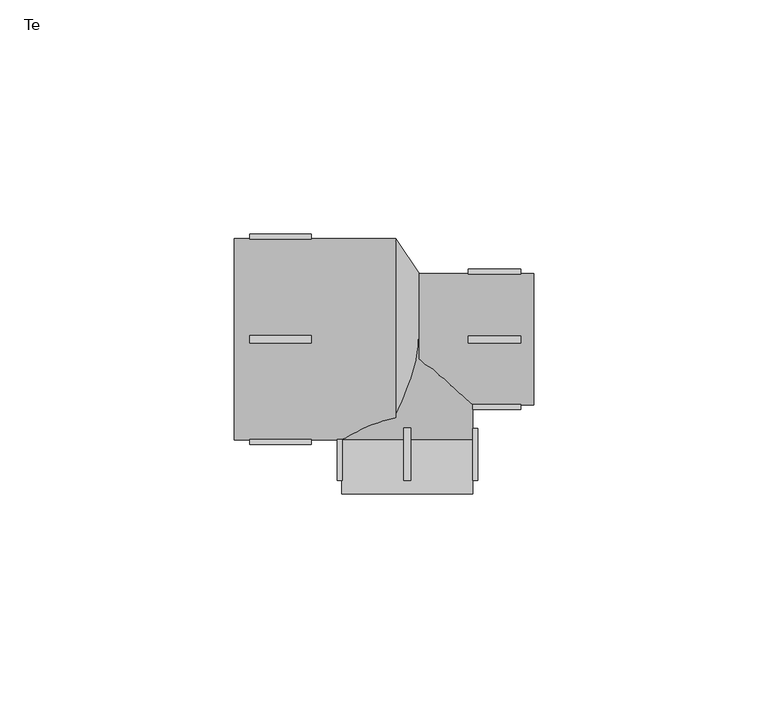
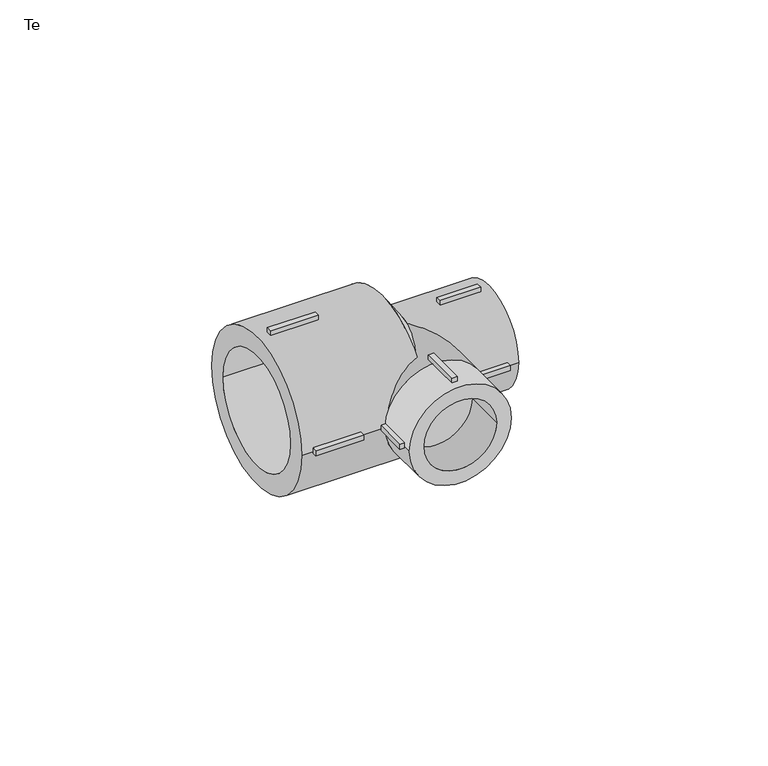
"""IFC4 building model written with IfcOpenShell, lengths in millimetres: pipe fitting geometry, EGB_VASEN_ PPR_Te WXR300_Te reducida WXR310 : Te."""

import ifcopenshell
import ifcopenshell.guid

model = None  # the IFC model being written
_history = None  # IfcOwnerHistory: only IFC2X3 demands one
_inside = {}  # id of a spatial element -> (the spatial element, [elements in it])
_under = {}  # id of a project, library or spatial element -> (it, [spatial elements below it])
_declared = {}  # id of a project -> (the project, [libraries it declares])
_typed = {}  # id of a type object -> (the type object, [elements of that type])
_made_of = {}  # id of a material, layer set ... -> (it, [elements and type objects made of it])


def new_model(schema):
    """Start an empty IFC model of exactly this schema.

    Asked for "IFC4X3", IfcOpenShell would pick the latest addendum, in which some entities
    have other attributes; the version numbers below select the first issue.
    IFC2X3 requires an IfcOwnerHistory on every rooted entity: one is made here for all.
    """
    global model, _history
    if schema == "IFC4X3":
        model = ifcopenshell.file(schema_version=(4, 3, 0, 0))
    else:
        model = ifcopenshell.file(schema=schema)
    _inside.clear()
    _under.clear()
    _declared.clear()
    _typed.clear()
    _made_of.clear()
    _history = None
    if model.schema == "IFC2X3":
        org = make("IfcOrganization", Name="unknown")
        user = make(
            "IfcPersonAndOrganization",
            ThePerson=make("IfcPerson", FamilyName="unknown"),
            TheOrganization=org,
        )
        app = make(
            "IfcApplication",
            ApplicationDeveloper=org,
            Version="unknown",
            ApplicationFullName="unknown",
            ApplicationIdentifier="unknown",
        )
        _history = make(
            "IfcOwnerHistory",
            OwningUser=user,
            OwningApplication=app,
            ChangeAction="ADDED",
            CreationDate=0,
        )
    return model


def make(cls, **values):
    """One entity of the class cls with the attributes given. An attribute that is None is left unset."""
    return model.create_entity(
        cls, **{name: value for name, value in values.items() if value is not None}
    )


def rooted(cls, **values):
    """An entity with a GlobalId (a new one), such as an element, a storey or a relation."""
    return make(cls, GlobalId=ifcopenshell.guid.new(), OwnerHistory=_history, **values)


def si_unit(unit_type, name, prefix=None):
    """IfcSIUnit, for example si_unit("LENGTHUNIT", "METRE", prefix="MILLI")."""
    return make("IfcSIUnit", UnitType=unit_type, Prefix=prefix, Name=name)


def assignment(units):
    """IfcUnitAssignment: the units of a project."""
    return None if units is None else make("IfcUnitAssignment", Units=units)


def point(xyz):
    """IfcCartesianPoint."""
    return None if xyz is None else make("IfcCartesianPoint", Coordinates=xyz)


def direction(xyz):
    """IfcDirection."""
    return None if xyz is None else make("IfcDirection", DirectionRatios=xyz)


def frame(location, z_axis=None, x_axis=None):
    """IfcAxis2Placement3D, a coordinate frame: its origin and axes. An axis left out is left unset."""
    return make(
        "IfcAxis2Placement3D",
        Location=point(location),
        Axis=direction(z_axis),
        RefDirection=direction(x_axis),
    )


def frame_2d(location, x_axis=None):
    """IfcAxis2Placement2D, a coordinate frame in the plane: its origin and x axis."""
    return make(
        "IfcAxis2Placement2D", Location=point(location), RefDirection=direction(x_axis)
    )


def origin():
    """The frame at (0, 0, 0) with its axes left unset."""
    return frame((0.0, 0.0, 0.0))


def origin_2d():
    """The frame at (0, 0) in the plane with its x axis left unset."""
    return frame_2d((0.0, 0.0))


def place(relative_to, where):
    """IfcLocalPlacement: puts the frame where relative to a parent placement (None: the world)."""
    return make(
        "IfcLocalPlacement", PlacementRelTo=relative_to, RelativePlacement=where
    )


def context(
    kind, dimensions, precision=None, world=None, true_north=None, identifier=None
):
    """IfcGeometricRepresentationContext, for example the 3D "Model" context."""
    return make(
        "IfcGeometricRepresentationContext",
        ContextIdentifier=identifier,
        ContextType=kind,
        CoordinateSpaceDimension=dimensions,
        Precision=precision,
        WorldCoordinateSystem=world,
        TrueNorth=true_north,
    )


def project(units=None, contexts=None):
    """IfcProject with its units and contexts."""
    return rooted(
        "IfcProject",
        Name="project",
        RepresentationContexts=contexts,
        UnitsInContext=assignment(units),
    )


def spatial(cls, under=None, at=None, **own):
    """A site, building, storey or space (cls), placed at a placement, below another one or the project."""
    s = rooted(cls, ObjectPlacement=at, **own)
    if under is not None:
        _under.setdefault(under.id(), (under, []))[1].append(s)
    return s


def polyline(points):
    """IfcPolyline through the points."""
    return make("IfcPolyline", Points=[point(p) for p in points])


def circle_curve(where, radius):
    """IfcCircle in the frame where."""
    return make("IfcCircle", Position=where, Radius=radius)


def trimmed(basis, trim1, trim2, sense, master):
    """IfcTrimmedCurve: the piece of a basis curve between two trims."""
    return make(
        "IfcTrimmedCurve",
        BasisCurve=basis,
        Trim1=trim1,
        Trim2=trim2,
        SenseAgreement=sense,
        MasterRepresentation=master,
    )


def segment(curve, same_sense, transition):
    """IfcCompositeCurveSegment."""
    return make(
        "IfcCompositeCurveSegment",
        Transition=transition,
        SameSense=same_sense,
        ParentCurve=curve,
    )


def composite_curve(segments, self_intersect=None):
    """IfcCompositeCurve: segments joined end to end."""
    return make("IfcCompositeCurve", Segments=segments, SelfIntersect=self_intersect)


def outline(outer, holes=None, kind="AREA"):
    """IfcArbitraryClosedProfileDef: a profile drawn as a closed curve; with holes, ...WithVoids."""
    if holes is None:
        return make("IfcArbitraryClosedProfileDef", ProfileType=kind, OuterCurve=outer)
    return make(
        "IfcArbitraryProfileDefWithVoids",
        ProfileType=kind,
        OuterCurve=outer,
        InnerCurves=holes,
    )


def extrude(swept, where, along, depth):
    """IfcExtrudedAreaSolid: the profile swept, set in the frame where, extruded along a direction by depth."""
    return make(
        "IfcExtrudedAreaSolid",
        SweptArea=swept,
        Position=where,
        ExtrudedDirection=direction(along),
        Depth=depth,
    )


def shape(context_of_items, identifier, shape_type, items):
    """IfcShapeRepresentation: the items that make up one representation, for example the "Body"."""
    return make(
        "IfcShapeRepresentation",
        ContextOfItems=context_of_items,
        RepresentationIdentifier=identifier,
        RepresentationType=shape_type,
        Items=items,
    )


def source(mapping_origin, context_of_items, identifier, shape_type, items):
    """IfcRepresentationMap: a shape defined once, which mapped items show again and again."""
    return make(
        "IfcRepresentationMap",
        MappingOrigin=mapping_origin,
        MappedRepresentation=shape(context_of_items, identifier, shape_type, items),
    )


def transform(
    local_origin,
    x_axis=None,
    y_axis=None,
    z_axis=None,
    scale=None,
    scale2=None,
    scale3=None,
    uniform=True,
):
    """IfcCartesianTransformationOperator3D, or its non-uniform kind. x_axis, y_axis, z_axis: its Axis1, 2, 3."""
    if uniform:
        return make(
            "IfcCartesianTransformationOperator3D",
            Axis1=direction(x_axis),
            Axis2=direction(y_axis),
            LocalOrigin=point(local_origin),
            Scale=scale,
            Axis3=direction(z_axis),
        )
    return make(
        "IfcCartesianTransformationOperator3DnonUniform",
        Axis1=direction(x_axis),
        Axis2=direction(y_axis),
        LocalOrigin=point(local_origin),
        Scale=scale,
        Axis3=direction(z_axis),
        Scale2=scale2,
        Scale3=scale3,
    )


def mapped(mapping_source, mapping_target):
    """IfcMappedItem: shows the shape of a source again, moved by a transform."""
    return make(
        "IfcMappedItem", MappingSource=mapping_source, MappingTarget=mapping_target
    )


def made_of(thing, what):
    """Note that an element or type object is made of a material, layer set ...; save() writes the relation."""
    if what is not None:
        _made_of.setdefault(what.id(), (what, []))[1].append(thing)
    return thing


def element(
    cls,
    number,
    at=None,
    inside=None,
    cuts=None,
    type_object=None,
    material=None,
    context=None,
    identifier="Body",
    shape_type=None,
    held_by="IfcProductDefinitionShape",
    body=None,
    shapes=None,
    **own,
):
    """One element of the class cls, such as IfcWall. Its Tag is "e" and its number.

    at: its placement. inside: the storey or other place that contains it. cuts: it is an
    opening in that element (IfcRelVoidsElement). A single representation is given by context,
    identifier, shape_type and body (its items); several are given by shapes. held_by: the class
    of the entity that holds the representations. save() writes the other relations.
    """
    e = rooted(cls, Tag="e%d" % number, ObjectPlacement=at, **own)
    if body is not None:
        shapes = [shape(context, identifier, shape_type, body)]
    if shapes is not None:
        e.Representation = make(held_by, Representations=shapes)
    if inside is not None:
        _inside.setdefault(inside.id(), (inside, []))[1].append(e)
    if cuts is not None:
        rooted(
            "IfcRelVoidsElement", RelatingBuildingElement=cuts, RelatedOpeningElement=e
        )
    if type_object is not None:
        _typed.setdefault(type_object.id(), (type_object, []))[1].append(e)
    return made_of(e, material)


def aggregate(whole, parts):
    """IfcRelAggregates: a whole, such as a stair, and the parts it consists of."""
    return rooted("IfcRelAggregates", RelatingObject=whole, RelatedObjects=parts)


def save(model, path):
    """Write the relations noted so far, then the file.

    IfcRelAggregates (storeys below a building ...), IfcRelContainedInSpatialStructure (elements
    in a storey), IfcRelDefinesByType, IfcRelAssociatesMaterial and IfcRelDeclares: one each for
    every whole, place, type object, material and project.
    """
    for whole, parts in _under.values():
        aggregate(whole, parts)
    for where, things in _inside.values():
        rooted(
            "IfcRelContainedInSpatialStructure",
            RelatedElements=things,
            RelatingStructure=where,
        )
    for kind, things in _typed.values():
        rooted("IfcRelDefinesByType", RelatedObjects=things, RelatingType=kind)
    for what, things in _made_of.values():
        rooted("IfcRelAssociatesMaterial", RelatedObjects=things, RelatingMaterial=what)
    for by, libraries in _declared.values():
        rooted("IfcRelDeclares", RelatingContext=by, RelatedDefinitions=libraries)
    model.write(path)


def plane_surface(at):
    """IfcPlane: the flat surface through the origin of the frame at, square to its z axis."""
    return make("IfcPlane", Position=at)


def revolved_surface(curve, axis_point, axis_direction):
    """IfcSurfaceOfRevolution: the curve turned about the line through axis_point along axis_direction."""
    return make(
        "IfcSurfaceOfRevolution",
        SweptCurve=make("IfcArbitraryOpenProfileDef", ProfileType="CURVE", Curve=curve),
        AxisPosition=make("IfcAxis1Placement", Location=point(axis_point), Axis=direction(axis_direction)),
    )


def advanced_brep(points, edges, surfaces, faces):
    """IfcAdvancedBrep: a solid bounded by faces that lie on surfaces and meet in shared edges.

    An edge is (start, end): straight between two places in points (the first is 0);
    or (start, end, curve); or (start, end, curve, False) where it runs against its curve.
    A face is (place in surfaces, loops), or (place, loops, False) where it looks against
    its surface's normal. A loop lists edges by number (the first is 1), with a minus sign
    where the edge is run from its end to its start. The first loop is the outer one.
    """
    corners = [point(p) for p in points]
    vertices = [make("IfcVertexPoint", VertexGeometry=c) for c in corners]
    made = []
    for start, end, *more in edges:
        made.append(
            make(
                "IfcEdgeCurve",
                EdgeStart=vertices[start],
                EdgeEnd=vertices[end],
                EdgeGeometry=more[0] if more else make("IfcPolyline", Points=[corners[start], corners[end]]),
                SameSense=more[1] if len(more) > 1 else True,
            )
        )
    hull = []
    for where, loops, *sense in faces:
        bounds = []
        for j, loop in enumerate(loops):
            ring = [make("IfcOrientedEdge", EdgeElement=made[abs(k) - 1], Orientation=k > 0) for k in loop]
            bounds.append(
                make(
                    "IfcFaceOuterBound" if j == 0 else "IfcFaceBound",
                    Bound=make("IfcEdgeLoop", EdgeList=ring),
                    Orientation=True,
                )
            )
        hull.append(make("IfcAdvancedFace", Bounds=bounds, FaceSurface=surfaces[where], SameSense=sense[0] if sense else True))
    return make("IfcAdvancedBrep", Outer=make("IfcClosedShell", CfsFaces=hull))


def te_da75dd9a(model_context):
    return source(origin(), model_context, "Body", "SolidModel", [
        extrude(outline(polyline([(-0.75, -19.0), (0.75, -19.0), (0.75, -30.2), (-0.75, -30.2), (-0.75, -19.0)])), frame((0.0, 0.0, 13.0), z_axis=(0.0, 0.0, 1.0), x_axis=(1.0, 0.0, 0.0)), (0.0, 0.0, 1.0), 2.0),
        extrude(outline(polyline([(-0.75, -19.0), (0.75, -19.0), (0.75, -30.2), (-0.75, -30.2), (-0.75, -19.0)])), frame((0.0, 0.0, -15.0), z_axis=(0.0, 0.0, 1.0), x_axis=(1.0, 0.0, 0.0)), (0.0, 0.0, 1.0), 2.0),
        extrude(outline(polyline([(13.0, -19.0), (15.0, -19.0), (15.0, -30.2), (13.0, -30.2), (13.0, -19.0)])), frame((0.0, 0.0, -0.75), z_axis=(0.0, 0.0, 1.0), x_axis=(1.0, 0.0, 0.0)), (0.0, 0.0, 1.0), 1.5),
        extrude(outline(polyline([(-15.0, -19.0), (-13.0, -19.0), (-13.0, -30.2), (-15.0, -30.2), (-15.0, -19.0)])), frame((0.0, 0.0, -0.75), z_axis=(0.0, 0.0, 1.0), x_axis=(1.0, 0.0, 0.0)), (0.0, 0.0, 1.0), 1.5),
        extrude(outline(polyline([(13.0, -0.75), (13.0, 0.75), (24.2, 0.75), (24.2, -0.75), (13.0, -0.75)])), frame((0.0, 0.0, 13.0), z_axis=(0.0, 0.0, 1.0), x_axis=(1.0, 0.0, 0.0)), (0.0, 0.0, 1.0), 2.0),
        extrude(outline(polyline([(13.0, -0.75), (13.0, 0.75), (24.2, 0.75), (24.2, -0.75), (13.0, -0.75)])), frame((0.0, 0.0, -15.0), z_axis=(0.0, 0.0, 1.0), x_axis=(1.0, 0.0, 0.0)), (0.0, 0.0, 1.0), 2.0),
        extrude(outline(polyline([(13.0, 13.0), (13.0, 15.0), (24.2, 15.0), (24.2, 13.0), (13.0, 13.0)])), frame((0.0, 0.0, -0.75), z_axis=(0.0, 0.0, 1.0), x_axis=(1.0, 0.0, 0.0)), (0.0, 0.0, 1.0), 1.5),
        extrude(outline(polyline([(13.0, -15.0), (13.0, -13.0), (24.2, -13.0), (24.2, -15.0), (13.0, -15.0)])), frame((0.0, 0.0, -0.75), z_axis=(0.0, 0.0, 1.0), x_axis=(1.0, 0.0, 0.0)), (0.0, 0.0, 1.0), 1.5),
        extrude(outline(polyline([(-20.5, 0.75), (-20.5, -0.75), (-33.7, -0.75), (-33.7, 0.75), (-20.5, 0.75)])), frame((0.0, 0.0, 20.5), z_axis=(0.0, 0.0, 1.0), x_axis=(1.0, 0.0, 0.0)), (0.0, 0.0, 1.0), 2.0),
        extrude(outline(polyline([(-20.5, 0.75), (-20.5, -0.75), (-33.7, -0.75), (-33.7, 0.75), (-20.5, 0.75)])), frame((0.0, 0.0, -22.5), z_axis=(0.0, 0.0, 1.0), x_axis=(1.0, 0.0, 0.0)), (0.0, 0.0, 1.0), 2.0),
        extrude(outline(polyline([(-20.5, 22.5), (-20.5, 20.5), (-33.7, 20.5), (-33.7, 22.5), (-20.5, 22.5)])), frame((0.0, 0.0, -0.75), z_axis=(0.0, 0.0, 1.0), x_axis=(1.0, 0.0, 0.0)), (0.0, 0.0, 1.0), 1.5),
        extrude(outline(polyline([(-20.5, -20.5), (-20.5, -22.5), (-33.7, -22.5), (-33.7, -20.5), (-20.5, -20.5)])), frame((0.0, 0.0, -0.75), z_axis=(0.0, 0.0, 1.0), x_axis=(1.0, 0.0, 0.0)), (0.0, 0.0, 1.0), 1.5),
        extrude(outline(composite_curve([segment(trimmed(circle_curve(origin_2d(), 14.0), [point((0.0, 14.0))], [point((0.0, -14.0))], False, "CARTESIAN"), True, "CONTINUOUS"), segment(trimmed(circle_curve(origin_2d(), 14.0), [point((0.0, -14.0))], [point((0.0, 14.0))], False, "CARTESIAN"), True, "CONTINUOUS")], self_intersect=False), holes=[composite_curve([segment(trimmed(circle_curve(origin_2d(), 10.0), [point((0.0, 10.0))], [point((0.0, -10.0))], True, "CARTESIAN"), True, "CONTINUOUS"), segment(trimmed(circle_curve(origin_2d(), 10.0), [point((0.0, -10.0))], [point((0.0, 10.0))], True, "CARTESIAN"), True, "CONTINUOUS")], self_intersect=False)]), frame((0.0, -33.0, 0.0), z_axis=(0.0, 1.0, 0.0), x_axis=(0.0, 0.0, 1.0)), (0.0, 0.0, 1.0), 11.5),
        extrude(outline(composite_curve([segment(trimmed(circle_curve(origin_2d(), 14.0), [point((-14.0, 0.0))], [point((14.0, 0.0))], False, "CARTESIAN"), True, "CONTINUOUS"), segment(trimmed(circle_curve(origin_2d(), 14.0), [point((14.0, 0.0))], [point((-14.0, 0.0))], False, "CARTESIAN"), True, "CONTINUOUS")], self_intersect=False), holes=[composite_curve([segment(trimmed(circle_curve(origin_2d(), 10.0), [point((-10.0, 0.0))], [point((10.0, 0.0))], True, "CARTESIAN"), True, "CONTINUOUS"), segment(trimmed(circle_curve(origin_2d(), 10.0), [point((10.0, 0.0))], [point((-10.0, 0.0))], True, "CARTESIAN"), True, "CONTINUOUS")], self_intersect=False)]), frame((2.48, 0.0, 0.0), z_axis=(1.0, 0.0, 0.0), x_axis=(0.0, 1.0, 0.0)), (0.0, 0.0, 1.0), 24.52),
        extrude(outline(composite_curve([segment(trimmed(circle_curve(origin_2d(), 21.5), [point((-21.5, 0.0))], [point((21.5, 0.0))], False, "CARTESIAN"), True, "CONTINUOUS"), segment(trimmed(circle_curve(origin_2d(), 21.5), [point((21.5, 0.0))], [point((-21.5, 0.0))], False, "CARTESIAN"), True, "CONTINUOUS")], self_intersect=False), holes=[composite_curve([segment(trimmed(circle_curve(origin_2d(), 16.0), [point((-16.0, 0.0))], [point((16.0, 0.0))], True, "CARTESIAN"), True, "CONTINUOUS"), segment(trimmed(circle_curve(origin_2d(), 16.0), [point((16.0, 0.0))], [point((-16.0, 0.0))], True, "CARTESIAN"), True, "CONTINUOUS")], self_intersect=False)]), frame((-37.0, 0.0, 0.0), z_axis=(1.0, 0.0, 0.0), x_axis=(0.0, 1.0, 0.0)), (0.0, 0.0, 1.0), 34.52),
        extrude(outline(composite_curve([segment(trimmed(circle_curve(origin_2d(), 14.0), [point((0.0, 14.0))], [point((0.0, -14.0))], False, "CARTESIAN"), True, "CONTINUOUS"), segment(trimmed(circle_curve(origin_2d(), 14.0), [point((0.0, -14.0))], [point((0.0, 14.0))], False, "CARTESIAN"), True, "CONTINUOUS")], self_intersect=False)), frame((0.0, -21.5, 0.0), z_axis=(0.0, 1.0, 0.0), x_axis=(0.0, 0.0, 1.0)), (0.0, 0.0, 1.0), 21.5),
        advanced_brep(
        [(2.48, -14.0, 0.0), (2.48, 14.0, 0.0), (-2.48, -21.5, 0.0), (-2.48, 21.5, 0.0)],
        [
            (0, 1, circle_curve(frame((2.48, 0.0, 0.0), z_axis=(1.0, 0.0, 0.0), x_axis=(0.0, -1.0, 0.0)), 14.0)),
            (1, 0, circle_curve(frame((2.48, 0.0, 0.0), z_axis=(1.0, 0.0, 0.0), x_axis=(0.0, 1.0, 0.0)), 14.0)),
            (2, 3, circle_curve(frame((-2.48, 0.0, 0.0), z_axis=(-1.0, 0.0, 0.0), x_axis=(0.0, 1.0, 0.0)), 21.5)),
            (3, 2, circle_curve(frame((-2.48, 0.0, 0.0), z_axis=(-1.0, 0.0, 0.0), x_axis=(0.0, -1.0, 0.0)), 21.5)),
            (3, 1),
            (0, 2),
        ],
        [
            plane_surface(frame((2.48, 0.0, 0.0), z_axis=(1.0, 0.0, 0.0), x_axis=(0.0, 0.0, -1.0))),
            plane_surface(frame((-2.48, 0.0, 0.0), z_axis=(-1.0, 0.0, 0.0), x_axis=(0.0, 0.0, -1.0))),
            revolved_surface(polyline([(2.4800000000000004, -14.000000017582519, 0.0), (-2.4800000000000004, -21.5, 0.0)]), (11.7386667, 0.0, 0.0), (-1.0, 0.0, 0.0)),
            revolved_surface(polyline([(2.4800000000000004, 14.000000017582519, 0.0), (-2.4800000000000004, 21.5, 0.0)]), (11.7386667, 0.0, 0.0), (-1.0, 0.0, 0.0)),
        ],
        [
            (0, [[1, 2]]),
            (1, [[3, 4]]),
            (2, [[-4, 5, -1, 6]]),
            (3, [[-3, -6, -2, -5]]),
        ],
    ),
    ])


if __name__ == "__main__":
    model = new_model("IFC4")
    model_context = context("Model", 3, world=origin())
    ifc_project = project(units=[si_unit("LENGTHUNIT", "METRE", prefix="MILLI")], contexts=[model_context])
    site = spatial("IfcSite", under=ifc_project)
    building = spatial("IfcBuilding", under=site)
    placement = place(None, origin())
    te_shape = te_da75dd9a(model_context)
    element("IfcPipeFitting", 1, ObjectType="EGB_VASEN_ PPR_Te WXR300_Te reducida WXR310 : Te", at=placement, inside=building, context=model_context, shape_type="MappedRepresentation", body=[
        mapped(te_shape, transform((0.0, 0.0, 0.0), x_axis=(1.0, 0.0, 0.0), y_axis=(0.0, 1.0, 0.0), z_axis=(0.0, 0.0, 1.0))),
    ])
    save(model, "model.ifc")
